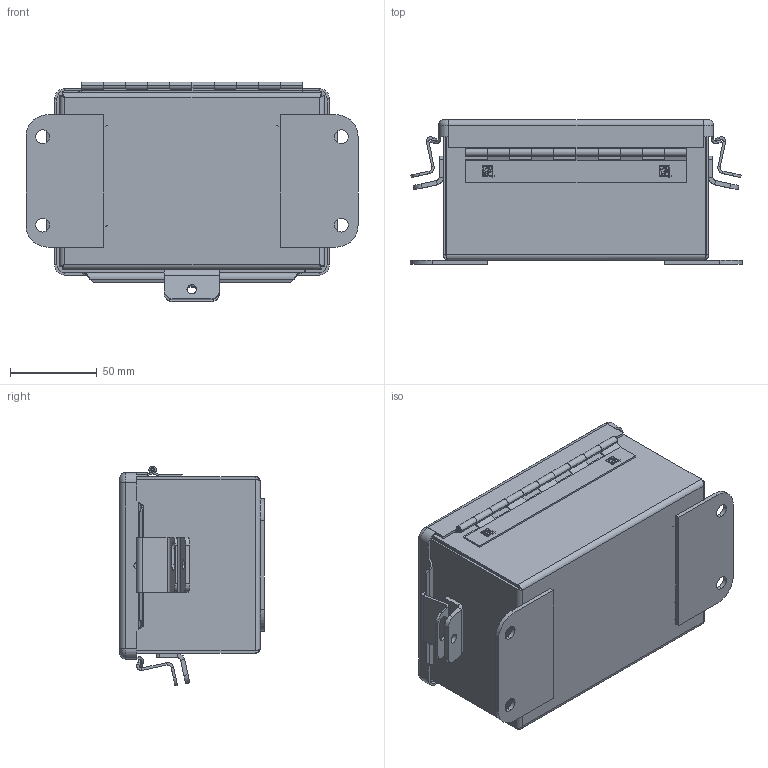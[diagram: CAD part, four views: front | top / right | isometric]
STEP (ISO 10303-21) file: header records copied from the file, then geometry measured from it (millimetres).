
FILE_DESCRIPTION (( 'STEP AP203' ), '1' );
FILE_NAME ('a604chnf.STEP', '2013-07-18T10:28:18', ( '' ), ( '' ), 'SwSTEP 2.0', 'SolidWorks 2010', '' );
FILE_SCHEMA (( 'CONFIG_CONTROL_DESIGN' ));
Products named in the file (14): a604chnf; 89059460_STANDARD CLOSED STATE; 54321006; 54208001_54208001; 54106001; 54102001; 89063033_STANDARD CLOSED STATE; 58346002; 54153002_CLOSED STATE - JIC; 89052938; 89052934; 99404181; 54101002; 54299002_PER MODEL
Assembly tree (22 placements, depth 5):
  a604chnf
    54101002  x3
    54299002_PER MODEL
    89059460_STANDARD CLOSED STATE
      54102001  x3
      54208001_54208001  x2
      54106001  x4
      89063033_STANDARD CLOSED STATE
        58346002
        54153002_CLOSED STATE - JIC
          89052938  x2
          89052934
        99404181
      54321006
Bounding box: 190.91 x 83.13 x 126.42 mm (x, y, z)
Volume: 183320.5 mm3; surface area: 222000.6 mm2
Topology: 20 solids, 20 shells, 1543 faces, 3981 edges, 2570 vertices
Faces by surface type: plane 671, bspline 567, cylinder 211, sphere 36, torus 30, cone 28
Entity records: 42781 total; most frequent: CARTESIAN_POINT 23180, ORIENTED_EDGE 4136, DIRECTION 2890, EDGE_CURVE 2068, VERTEX_POINT 1313, LINE 1222, VECTOR 1222, EDGE_LOOP 863
